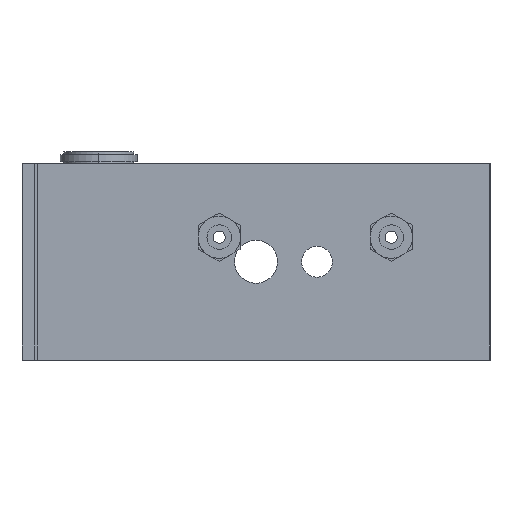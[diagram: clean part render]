
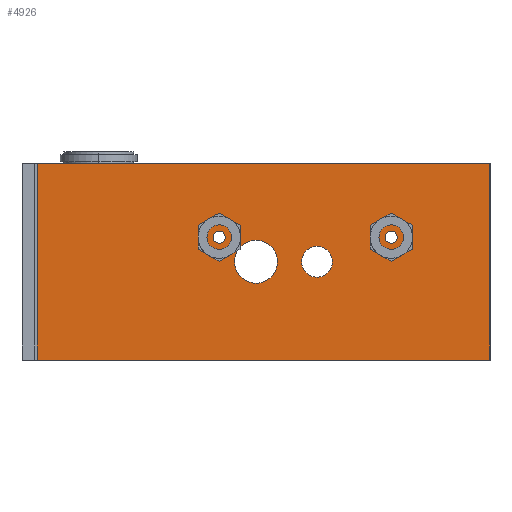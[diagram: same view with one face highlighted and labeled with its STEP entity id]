
A CAD part, left-side view. The second image highlights one B-rep face of the part: STEP entity #4926.
In plain terms, the highlighted planar face has unit normal (-1, 0, 0).
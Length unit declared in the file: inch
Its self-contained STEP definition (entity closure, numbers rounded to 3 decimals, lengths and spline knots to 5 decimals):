
#3713=CARTESIAN_POINT('',(-2.6,-0.46314,0.0));
#3714=VERTEX_POINT('',#3713);
#3723=CARTESIAN_POINT('',(-2.6,-0.77811,0.));
#3724=VERTEX_POINT('',#3723);
#3725=CARTESIAN_POINT('',(-2.6,-0.62063,0.0));
#3726=DIRECTION('',(1.0,0.0,0.0));
#3727=DIRECTION('',(0.0,1.0,0.0));
#3728=AXIS2_PLACEMENT_3D('',#3725,#3726,#3727);
#3729=CIRCLE('',#3728,0.15748);
#3730=EDGE_CURVE('',#3724,#3714,#3729,.T.);
#3755=CARTESIAN_POINT('',(-2.6,0.21813,0.0));
#3756=VERTEX_POINT('',#3755);
#3765=CARTESIAN_POINT('',(-2.6,-0.21937,0.));
#3766=VERTEX_POINT('',#3765);
#3767=CARTESIAN_POINT('',(-2.6,-0.00062,0.0));
#3768=DIRECTION('',(1.0,0.0,0.0));
#3769=DIRECTION('',(0.0,1.0,0.0));
#3770=AXIS2_PLACEMENT_3D('',#3767,#3768,#3769);
#3771=CIRCLE('',#3770,0.21875);
#3772=EDGE_CURVE('',#3766,#3756,#3771,.T.);
#3797=CARTESIAN_POINT('',(-2.6,0.43687,0.25));
#3798=VERTEX_POINT('',#3797);
#3807=CARTESIAN_POINT('',(-2.6,0.31187,0.25));
#3808=VERTEX_POINT('',#3807);
#3809=CARTESIAN_POINT('',(-2.6,0.37437,0.25));
#3810=DIRECTION('',(1.0,0.0,0.0));
#3811=DIRECTION('',(0.0,1.0,0.0));
#3812=AXIS2_PLACEMENT_3D('',#3809,#3810,#3811);
#3813=CIRCLE('',#3812,0.0625);
#3814=EDGE_CURVE('',#3808,#3798,#3813,.T.);
#3839=CARTESIAN_POINT('',(-2.6,-1.31313,0.25));
#3840=VERTEX_POINT('',#3839);
#3849=CARTESIAN_POINT('',(-2.6,-1.43813,0.25));
#3850=VERTEX_POINT('',#3849);
#3851=CARTESIAN_POINT('',(-2.6,-1.37563,0.25));
#3852=DIRECTION('',(1.0,0.0,0.0));
#3853=DIRECTION('',(0.0,1.0,0.0));
#3854=AXIS2_PLACEMENT_3D('',#3851,#3852,#3853);
#3855=CIRCLE('',#3854,0.0625);
#3856=EDGE_CURVE('',#3850,#3840,#3855,.T.);
#3890=CARTESIAN_POINT('',(-2.6,-1.37563,0.25));
#3891=DIRECTION('',(1.0,0.0,0.0));
#3892=DIRECTION('',(0.0,1.0,0.0));
#3893=AXIS2_PLACEMENT_3D('',#3890,#3891,#3892);
#3894=CIRCLE('',#3893,0.0625);
#3895=EDGE_CURVE('',#3840,#3850,#3894,.T.);
#3914=CARTESIAN_POINT('',(-2.6,0.37437,0.25));
#3915=DIRECTION('',(1.0,0.0,0.0));
#3916=DIRECTION('',(0.0,1.0,0.0));
#3917=AXIS2_PLACEMENT_3D('',#3914,#3915,#3916);
#3918=CIRCLE('',#3917,0.0625);
#3919=EDGE_CURVE('',#3798,#3808,#3918,.T.);
#3938=CARTESIAN_POINT('',(-2.6,-0.00062,0.0));
#3939=DIRECTION('',(1.0,0.0,0.0));
#3940=DIRECTION('',(0.0,1.0,0.0));
#3941=AXIS2_PLACEMENT_3D('',#3938,#3939,#3940);
#3942=CIRCLE('',#3941,0.21875);
#3943=EDGE_CURVE('',#3756,#3766,#3942,.T.);
#3962=CARTESIAN_POINT('',(-2.6,-0.62063,0.0));
#3963=DIRECTION('',(1.0,0.0,0.0));
#3964=DIRECTION('',(0.0,1.0,0.0));
#3965=AXIS2_PLACEMENT_3D('',#3962,#3963,#3964);
#3966=CIRCLE('',#3965,0.15748);
#3967=EDGE_CURVE('',#3714,#3724,#3966,.T.);
#4667=CARTESIAN_POINT('',(-2.6,2.22338,1.0));
#4668=VERTEX_POINT('',#4667);
#4676=CARTESIAN_POINT('',(-2.6,-2.37963,1.0));
#4677=VERTEX_POINT('',#4676);
#4678=CARTESIAN_POINT('',(-2.6,-2.37963,1.0));
#4679=DIRECTION('',(0.0,1.0,0.0));
#4680=VECTOR('',#4679,4.603);
#4681=LINE('',#4678,#4680);
#4682=EDGE_CURVE('',#4677,#4668,#4681,.T.);
#4861=CARTESIAN_POINT('',(-2.6,-2.37963,-1.0));
#4862=VERTEX_POINT('',#4861);
#4863=CARTESIAN_POINT('',(-2.6,-2.37963,-1.0));
#4864=DIRECTION('',(0.0,0.0,1.0));
#4865=VECTOR('',#4864,2.0);
#4866=LINE('',#4863,#4865);
#4867=EDGE_CURVE('',#4862,#4677,#4866,.T.);
#4887=CARTESIAN_POINT('',(-2.6,-2.37963,-1.0));
#4888=DIRECTION('',(-1.0,0.0,0.0));
#4889=DIRECTION('',(0.0,0.0,1.0));
#4890=AXIS2_PLACEMENT_3D('',#4887,#4888,#4889);
#4891=PLANE('',#4890);
#4892=ORIENTED_EDGE('',*,*,#4682,.T.);
#4893=CARTESIAN_POINT('',(-2.6,2.22338,-1.0));
#4894=VERTEX_POINT('',#4893);
#4895=CARTESIAN_POINT('',(-2.6,2.22338,-1.0));
#4896=DIRECTION('',(0.0,0.0,1.0));
#4897=VECTOR('',#4896,2.0);
#4898=LINE('',#4895,#4897);
#4899=EDGE_CURVE('',#4894,#4668,#4898,.T.);
#4900=ORIENTED_EDGE('',*,*,#4899,.F.);
#4901=CARTESIAN_POINT('',(-2.6,-2.37963,-1.0));
#4902=DIRECTION('',(0.0,1.0,0.0));
#4903=VECTOR('',#4902,4.603);
#4904=LINE('',#4901,#4903);
#4905=EDGE_CURVE('',#4862,#4894,#4904,.T.);
#4906=ORIENTED_EDGE('',*,*,#4905,.F.);
#4907=ORIENTED_EDGE('',*,*,#4867,.T.);
#4908=EDGE_LOOP('',(#4892,#4900,#4906,#4907));
#4909=FACE_OUTER_BOUND('',#4908,.T.);
#4910=ORIENTED_EDGE('',*,*,#3895,.T.);
#4911=ORIENTED_EDGE('',*,*,#3856,.T.);
#4912=EDGE_LOOP('',(#4910,#4911));
#4913=FACE_BOUND('',#4912,.T.);
#4914=ORIENTED_EDGE('',*,*,#3919,.T.);
#4915=ORIENTED_EDGE('',*,*,#3814,.T.);
#4916=EDGE_LOOP('',(#4914,#4915));
#4917=FACE_BOUND('',#4916,.T.);
#4918=ORIENTED_EDGE('',*,*,#3943,.T.);
#4919=ORIENTED_EDGE('',*,*,#3772,.T.);
#4920=EDGE_LOOP('',(#4918,#4919));
#4921=FACE_BOUND('',#4920,.T.);
#4922=ORIENTED_EDGE('',*,*,#3967,.T.);
#4923=ORIENTED_EDGE('',*,*,#3730,.T.);
#4924=EDGE_LOOP('',(#4922,#4923));
#4925=FACE_BOUND('',#4924,.T.);
#4926=ADVANCED_FACE('',(#4909,#4913,#4917,#4921,#4925),#4891,.T.);
